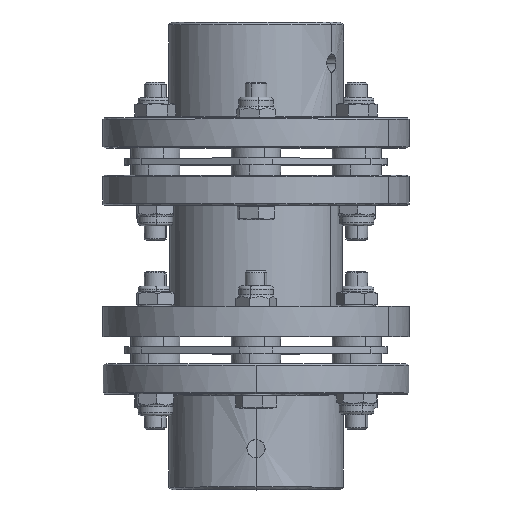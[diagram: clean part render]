
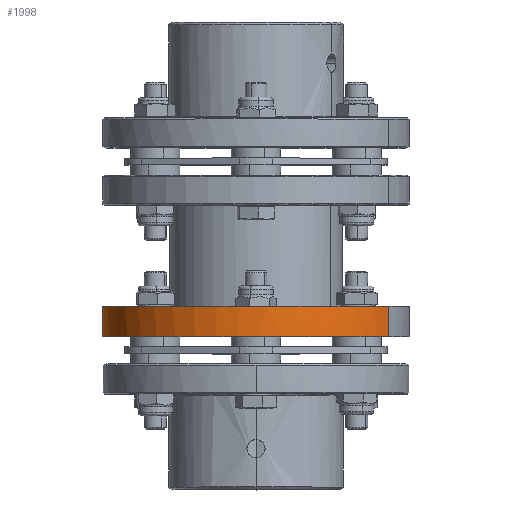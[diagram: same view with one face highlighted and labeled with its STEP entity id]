
A CAD part, top view. The second image highlights one B-rep face of the part: STEP entity #1998.
In plain terms, the highlighted free-form (B-spline) face has degree [3, 1] with [4, 2] control points.
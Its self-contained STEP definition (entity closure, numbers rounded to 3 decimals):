
#1998 = ADVANCED_FACE( '', ( #4693 ), #4694, .T. );
#4693 = FACE_OUTER_BOUND( '', #12705, .T. );
#4694 = ( BOUNDED_SURFACE(  )B_SPLINE_SURFACE( 3, 1, ( ( #12708, #12709 ), ( #12710, #12711 ), ( #12712, #12713 ), ( #12714, #12715 ) ), .UNSPECIFIED., .F., .F., .F. )B_SPLINE_SURFACE_WITH_KNOTS( ( 4, 4 ), ( 2, 2 ), ( 0., 1. ), ( 0., 1. ), .UNSPECIFIED. )GEOMETRIC_REPRESENTATION_ITEM(  )RATIONAL_B_SPLINE_SURFACE( ( ( 1., 1. ), ( 0.333, 0.333 ), ( 0.333, 0.333 ), ( 1., 1. ) ) )REPRESENTATION_ITEM( '' )SURFACE(  ) );
#12705 = EDGE_LOOP( '', ( #20291, #20292, #20293, #20294 ) );
#12708 = CARTESIAN_POINT( '', ( 48.497, 21., 28. ) );
#12709 = CARTESIAN_POINT( '', ( 48.497, 10., 28. ) );
#12710 = CARTESIAN_POINT( '', ( -7.503, 21., 124.995 ) );
#12711 = CARTESIAN_POINT( '', ( -7.503, 10., 124.995 ) );
#12712 = CARTESIAN_POINT( '', ( -104.497, 21., 68.995 ) );
#12713 = CARTESIAN_POINT( '', ( -104.497, 10., 68.995 ) );
#12714 = CARTESIAN_POINT( '', ( -48.497, 21., -28. ) );
#12715 = CARTESIAN_POINT( '', ( -48.497, 10., -28. ) );
#20291 = ORIENTED_EDGE( '', *, *, #24038, .F. );
#20292 = ORIENTED_EDGE( '', *, *, #23948, .T. );
#20293 = ORIENTED_EDGE( '', *, *, #23865, .T. );
#20294 = ORIENTED_EDGE( '', *, *, #23950, .T. );
#23865 = EDGE_CURVE( '', #27431, #27430, #27433, .T. );
#23948 = EDGE_CURVE( '', #27538, #27431, #27539, .T. );
#23950 = EDGE_CURVE( '', #27430, #27540, #27542, .T. );
#24038 = EDGE_CURVE( '', #27538, #27540, #27658, .T. );
#27430 = VERTEX_POINT( '', #42982 );
#27431 = VERTEX_POINT( '', #42983 );
#27433 = ( BOUNDED_CURVE(  )B_SPLINE_CURVE( 3, ( #42997, #42998, #42999, #43000 ), .UNSPECIFIED., .F., .F. )B_SPLINE_CURVE_WITH_KNOTS( ( 4, 4 ), ( 0., 1. ), .UNSPECIFIED. )CURVE(  )GEOMETRIC_REPRESENTATION_ITEM(  )RATIONAL_B_SPLINE_CURVE( ( 1., 0.333, 0.333, 1. ) )REPRESENTATION_ITEM( '' ) );
#27538 = VERTEX_POINT( '', #43484 );
#27539 = B_SPLINE_CURVE_WITH_KNOTS( '', 1, ( #43485, #43486 ), .UNSPECIFIED., .F., .F., ( 2, 2 ), ( 0., 1. ), .UNSPECIFIED. );
#27540 = VERTEX_POINT( '', #43487 );
#27542 = B_SPLINE_CURVE_WITH_KNOTS( '', 1, ( #43534, #43535 ), .UNSPECIFIED., .F., .F., ( 2, 2 ), ( 0., 1. ), .UNSPECIFIED. );
#27658 = B_SPLINE_CURVE_WITH_KNOTS( '', 3, ( #44173, #44174, #44175, #44176, #44177, #44178, #44179, #44180, #44181, #44182, #44183, #44184, #44185, #44186, #44187, #44188, #44189, #44190, #44191, #44192, #44193, #44194, #44195, #44196, #44197, #44198, #44199, #44200, #44201, #44202, #44203, #44204, #44205, #44206, #44207, #44208, #44209, #44210, #44211, #44212, #44213, #44214, #44215, #44216, #44217, #44218 ), .UNSPECIFIED., .F., .F., ( 4, 1, 1, 1, 1, 1, 1, 1, 1, 1, 1, 1, 1, 1, 1, 1, 1, 1, 1, 1, 1, 1, 1, 1, 1, 1, 1, 1, 1, 1, 1, 1, 1, 1, 1, 1, 1, 1, 1, 1, 1, 1, 1, 4 ), ( 0., 0.004, 0.008, 0.013, 0.017, 0.021, 0.025, 0.03, 0.034, 0.038, 0.042, 0.066, 0.09, 0.117, 0.144, 0.175, 0.205, 0.237, 0.272, 0.307, 0.344, 0.382, 0.421, 0.46, 0.5, 0.54, 0.579, 0.618, 0.656, 0.693, 0.728, 0.763, 0.795, 0.825, 0.856, 0.883, 0.91, 0.934, 0.958, 0.966, 0.975, 0.983, 0.992, 1. ), .UNSPECIFIED. );
#42982 = CARTESIAN_POINT( '', ( -48.497, 21., -28. ) );
#42983 = CARTESIAN_POINT( '', ( 48.497, 21., 28. ) );
#42997 = CARTESIAN_POINT( '', ( 48.497, 21., 28. ) );
#42998 = CARTESIAN_POINT( '', ( -7.503, 21., 124.995 ) );
#42999 = CARTESIAN_POINT( '', ( -104.497, 21., 68.995 ) );
#43000 = CARTESIAN_POINT( '', ( -48.497, 21., -28. ) );
#43484 = CARTESIAN_POINT( '', ( 48.497, 10., 28. ) );
#43485 = CARTESIAN_POINT( '', ( 48.497, 10., 28. ) );
#43486 = CARTESIAN_POINT( '', ( 48.497, 21., 28. ) );
#43487 = CARTESIAN_POINT( '', ( -48.497, 10., -28. ) );
#43534 = CARTESIAN_POINT( '', ( -48.497, 21., -28. ) );
#43535 = CARTESIAN_POINT( '', ( -48.497, 10., -28. ) );
#44173 = CARTESIAN_POINT( '', ( 48.497, 10., 28. ) );
#44174 = CARTESIAN_POINT( '', ( 48.372, 10., 28.215 ) );
#44175 = CARTESIAN_POINT( '', ( 48.122, 10., 28.645 ) );
#44176 = CARTESIAN_POINT( '', ( 47.736, 10., 29.283 ) );
#44177 = CARTESIAN_POINT( '', ( 47.342, 10., 29.916 ) );
#44178 = CARTESIAN_POINT( '', ( 46.939, 10., 30.543 ) );
#44179 = CARTESIAN_POINT( '', ( 46.529, 10., 31.165 ) );
#44180 = CARTESIAN_POINT( '', ( 46.11, 10., 31.781 ) );
#44181 = CARTESIAN_POINT( '', ( 45.683, 10., 32.392 ) );
#44182 = CARTESIAN_POINT( '', ( 45.248, 10., 32.997 ) );
#44183 = CARTESIAN_POINT( '', ( 44.804, 10., 33.597 ) );
#44184 = CARTESIAN_POINT( '', ( 43.652, 10., 35.112 ) );
#44185 = CARTESIAN_POINT( '', ( 41.692, 10., 37.467 ) );
#44186 = CARTESIAN_POINT( '', ( 38.63, 10., 40.626 ) );
#44187 = CARTESIAN_POINT( '', ( 35.19, 10., 43.65 ) );
#44188 = CARTESIAN_POINT( '', ( 31.21, 10., 46.587 ) );
#44189 = CARTESIAN_POINT( '', ( 26.822, 10., 49.256 ) );
#44190 = CARTESIAN_POINT( '', ( 21.905, 10., 51.637 ) );
#44191 = CARTESIAN_POINT( '', ( 16.559, 10., 53.603 ) );
#44192 = CARTESIAN_POINT( '', ( 10.732, 10., 55.076 ) );
#44193 = CARTESIAN_POINT( '', ( 4.531, 10., 55.938 ) );
#44194 = CARTESIAN_POINT( '', ( -1.952, 10., 56.095 ) );
#44195 = CARTESIAN_POINT( '', ( -8.6, 10., 55.473 ) );
#44196 = CARTESIAN_POINT( '', ( -15.273, 10., 54.024 ) );
#44197 = CARTESIAN_POINT( '', ( -21.816, 10., 51.733 ) );
#44198 = CARTESIAN_POINT( '', ( -28.073, 10., 48.624 ) );
#44199 = CARTESIAN_POINT( '', ( -33.894, 10., 44.76 ) );
#44200 = CARTESIAN_POINT( '', ( -39.15, 10., 40.239 ) );
#44201 = CARTESIAN_POINT( '', ( -43.741, 10., 35.185 ) );
#44202 = CARTESIAN_POINT( '', ( -47.604, 10., 29.738 ) );
#44203 = CARTESIAN_POINT( '', ( -50.709, 10., 24.045 ) );
#44204 = CARTESIAN_POINT( '', ( -53.063, 10., 18.244 ) );
#44205 = CARTESIAN_POINT( '', ( -54.702, 10., 12.461 ) );
#44206 = CARTESIAN_POINT( '', ( -55.671, 10., 6.849 ) );
#44207 = CARTESIAN_POINT( '', ( -56.068, 10., 1.399 ) );
#44208 = CARTESIAN_POINT( '', ( -55.951, 10., -3.735 ) );
#44209 = CARTESIAN_POINT( '', ( -55.397, 10., -8.65 ) );
#44210 = CARTESIAN_POINT( '', ( -54.498, 10., -13.141 ) );
#44211 = CARTESIAN_POINT( '', ( -53.293, 10., -17.373 ) );
#44212 = CARTESIAN_POINT( '', ( -52.148, 10., -20.482 ) );
#44213 = CARTESIAN_POINT( '', ( -51.205, 10., -22.689 ) );
#44214 = CARTESIAN_POINT( '', ( -50.583, 10., -24.044 ) );
#44215 = CARTESIAN_POINT( '', ( -49.925, 10., -25.381 ) );
#44216 = CARTESIAN_POINT( '', ( -49.233, 10., -26.702 ) );
#44217 = CARTESIAN_POINT( '', ( -48.743, 10., -27.567 ) );
#44218 = CARTESIAN_POINT( '', ( -48.497, 10., -28. ) );
